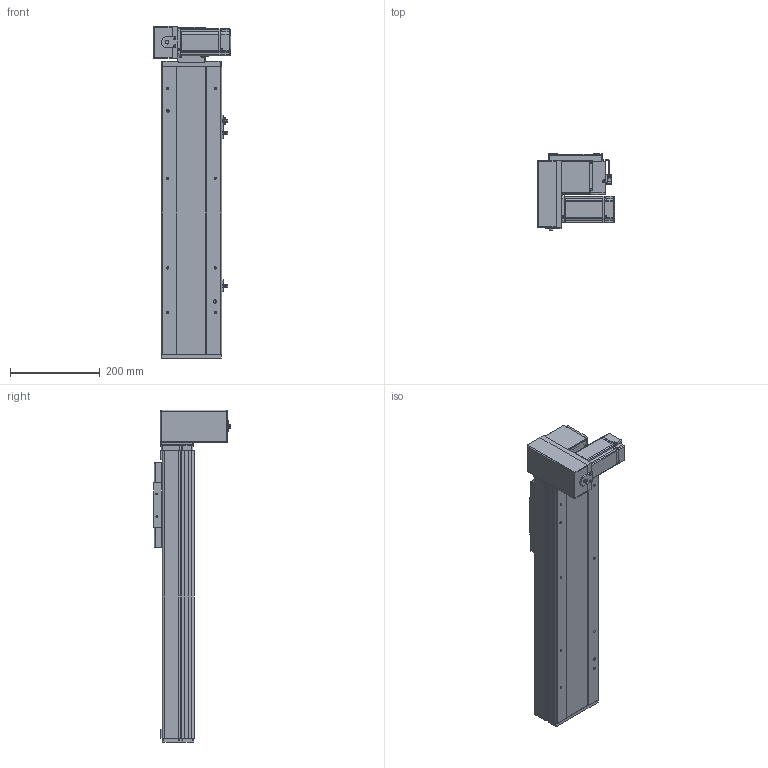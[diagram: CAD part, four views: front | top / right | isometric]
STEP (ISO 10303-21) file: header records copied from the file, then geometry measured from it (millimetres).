
FILE_DESCRIPTION (( 'STEP AP214' ), '1' );
FILE_NAME ('TPE14-L40-350-LD-T40-C4.STEP', '2023-04-12T09:05:31', ( '' ), ( '' ), 'SwSTEP 2.0', 'SolidWorks 2020', '' );
FILE_SCHEMA (( 'AUTOMOTIVE_DESIGN' ));
Length unit declared in the file: millimetre
Products named in the file (10): 葩璃 TPT14-L-009 萇儂啣^TPE14-L40-LD-T40-C4_400W; 葩璃 pm-t65-672^TPE14-L40-LD-T40-C4; 葩璃 TPE14-L-007 々湍釱MZ-169x88^TPE14-L40-LD-T40-C4_YCB14; 葩璃 詩湍75^TPE14-L40-LD-T40-C4; hexagon head bolts-full thread gb_GB_FASTENER_BOLT_STBAB A M5X16-N; TPE14-L40-350-LD-T40-C4; 葩璃 TPE14 賑雄殤^TPE14-L40-LD-T40-C4; 葩璃 TPE14-L-002 耜裔ZTMZ-135-04^TPE14-L40-LD-T40-C4; 葩璃 侂狟400W^TPE14-L40-LD-T40-C4; 葩璃 TPE14-L-001 菁釱MZ-135-01^TPE14-L40-LD-T40-C4
Assembly tree (12 placements, depth 2):
  TPE14-L40-350-LD-T40-C4
    葩璃 TPE14-L-001 菁釱MZ-135-01^TPE14-L40-LD-T40-C4
    葩璃 TPE14-L-002 耜裔ZTMZ-135-04^TPE14-L40-LD-T40-C4  x2
    葩璃 詩湍75^TPE14-L40-LD-T40-C4
    葩璃 TPE14-L-007 々湍釱MZ-169x88^TPE14-L40-LD-T40-C4_YCB14
    葩璃 TPT14-L-009 萇儂啣^TPE14-L40-LD-T40-C4_400W
    葩璃 TPE14 賑雄殤^TPE14-L40-LD-T40-C4
    葩璃 pm-t65-672^TPE14-L40-LD-T40-C4  x3
    葩璃 侂狟400W^TPE14-L40-LD-T40-C4
    hexagon head bolts-full thread gb_GB_FASTENER_BOLT_STBAB A M5X16-N
Bounding box: 172.5 x 171.45 x 740.5 mm (x, y, z)
Volume: 4124596 mm3; surface area: 880618.9 mm2
Topology: 23 solids, 23 shells, 1388 faces, 3607 edges, 2300 vertices
Faces by surface type: plane 823, cylinder 409, cone 122, bspline 34
Entity records: 36839 total; most frequent: CARTESIAN_POINT 7252, DIRECTION 5888, ORIENTED_EDGE 5730, EDGE_CURVE 2865, AXIS2_PLACEMENT_3D 1990, VECTOR 1908, LINE 1908, VERTEX_POINT 1848
